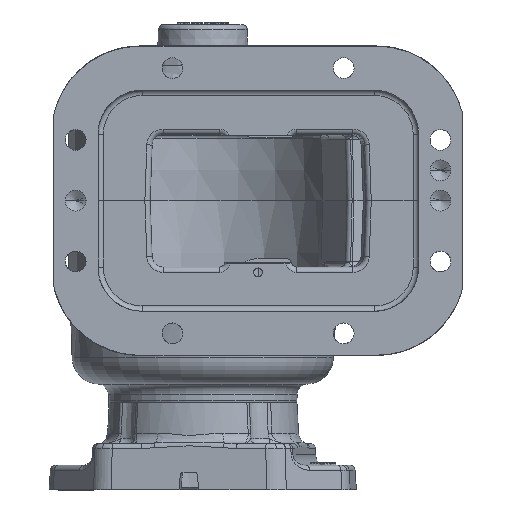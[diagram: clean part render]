
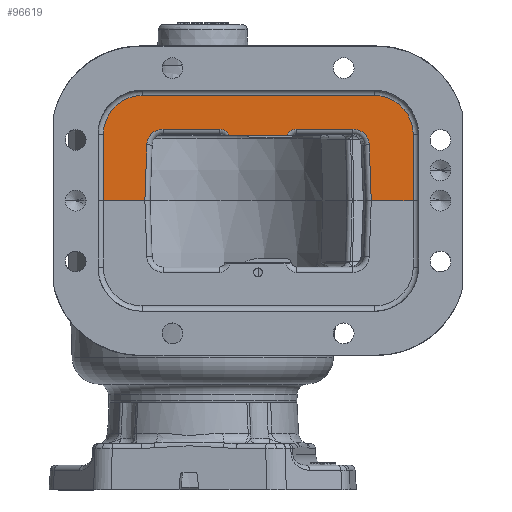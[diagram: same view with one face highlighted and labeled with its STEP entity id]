
A CAD part, front view. The second image highlights one B-rep face of the part: STEP entity #96619.
In plain terms, the highlighted planar face has unit normal (0, -1, 0).
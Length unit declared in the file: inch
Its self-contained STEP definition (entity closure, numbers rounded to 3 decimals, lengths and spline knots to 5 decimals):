
#573 = LINE ( 'NONE', #96717, #86482 ) ;
#1693 = VERTEX_POINT ( 'NONE', #90813 ) ;
#3667 = CARTESIAN_POINT ( 'NONE',  ( -1.47, -4.3, -3.37 ) ) ;
#4722 = CIRCLE ( 'NONE', #37878, 0.88 ) ;
#5596 = ORIENTED_EDGE ( 'NONE', *, *, #95677, .F. ) ;
#6559 = DIRECTION ( 'NONE',  ( 1., 0., 0. ) ) ;
#7131 = LINE ( 'NONE', #55989, #76379 ) ;
#7827 = EDGE_CURVE ( 'NONE', #33975, #61874, #4722, .T. ) ;
#7989 = LINE ( 'NONE', #102567, #21280 ) ;
#8660 = ORIENTED_EDGE ( 'NONE', *, *, #98202, .F. ) ;
#10984 = EDGE_CURVE ( 'NONE', #94378, #79240, #24231, .T. ) ;
#12722 = CARTESIAN_POINT ( 'NONE',  ( 0., -4.3, -2.25 ) ) ;
#12865 = VERTEX_POINT ( 'NONE', #68594 ) ;
#14222 = EDGE_CURVE ( 'NONE', #30390, #94378, #46119, .T. ) ;
#14369 = CARTESIAN_POINT ( 'NONE',  ( 0., -4.3, 4.76 ) ) ;
#15084 = EDGE_CURVE ( 'NONE', #74849, #12865, #60363, .T. ) ;
#15118 = DIRECTION ( 'NONE',  ( 0., 1., 0. ) ) ;
#15153 = VECTOR ( 'NONE', #16490, 39.37008 ) ;
#16490 = DIRECTION ( 'NONE',  ( -0.999, 0., -0.035 ) ) ;
#17397 = DIRECTION ( 'NONE',  ( 0., 1., 0. ) ) ;
#18125 = VECTOR ( 'NONE', #73460, 39.37008 ) ;
#19511 = PLANE ( 'NONE',  #38326 ) ;
#20092 = DIRECTION ( 'NONE',  ( 0., -1., 0. ) ) ;
#20441 = VERTEX_POINT ( 'NONE', #29120 ) ;
#20702 = ORIENTED_EDGE ( 'NONE', *, *, #84724, .F. ) ;
#21280 = VECTOR ( 'NONE', #102062, 39.37008 ) ;
#23286 = EDGE_CURVE ( 'NONE', #34923, #75778, #58993, .T. ) ;
#24231 = CIRCLE ( 'NONE', #40882, 0.37 ) ;
#24675 = VERTEX_POINT ( 'NONE', #63373 ) ;
#25120 = CARTESIAN_POINT ( 'NONE',  ( 0., -4.3, -3.37 ) ) ;
#26154 = LINE ( 'NONE', #25120, #18125 ) ;
#27051 = DIRECTION ( 'NONE',  ( 0., 0., -1. ) ) ;
#28263 = DIRECTION ( 'NONE',  ( 0., 0., -1. ) ) ;
#29120 = CARTESIAN_POINT ( 'NONE',  ( -1.47, -4.3, 0.60497 ) ) ;
#29496 = CARTESIAN_POINT ( 'NONE',  ( -1.62, -4.3, -0.8962 ) ) ;
#29545 = ORIENTED_EDGE ( 'NONE', *, *, #93372, .T. ) ;
#30390 = VERTEX_POINT ( 'NONE', #45388 ) ;
#31454 = CARTESIAN_POINT ( 'NONE',  ( -2.38, -4.3, 3.88 ) ) ;
#33429 = EDGE_CURVE ( 'NONE', #79240, #12865, #7131, .T. ) ;
#33450 = EDGE_CURVE ( 'NONE', #43811, #1693, #87689, .T. ) ;
#33677 = DIRECTION ( 'NONE',  ( 0., 0., -1. ) ) ;
#33975 = VERTEX_POINT ( 'NONE', #82833 ) ;
#34923 = VERTEX_POINT ( 'NONE', #96816 ) ;
#36491 = CIRCLE ( 'NONE', #41487, 0.88 ) ;
#37878 = AXIS2_PLACEMENT_3D ( 'NONE', #96386, #17397, #49128 ) ;
#38179 = VECTOR ( 'NONE', #6559, 39.37008 ) ;
#38326 = AXIS2_PLACEMENT_3D ( 'NONE', #65310, #51233, #82915 ) ;
#39705 = DIRECTION ( 'NONE',  ( 0., 0., -1. ) ) ;
#40882 = AXIS2_PLACEMENT_3D ( 'NONE', #56090, #81035, #87795 ) ;
#41487 = AXIS2_PLACEMENT_3D ( 'NONE', #53609, #15118, #69690 ) ;
#42692 = CARTESIAN_POINT ( 'NONE',  ( -1.62, -4.3, 2.11752 ) ) ;
#42973 = CIRCLE ( 'NONE', #62818, 0.24 ) ;
#43165 = ORIENTED_EDGE ( 'NONE', *, *, #97986, .F. ) ;
#43811 = VERTEX_POINT ( 'NONE', #63686 ) ;
#44238 = CARTESIAN_POINT ( 'NONE',  ( -2.38, -4.3, -1.37 ) ) ;
#45388 = CARTESIAN_POINT ( 'NONE',  ( -1.62, -4.3, 0.38248 ) ) ;
#46077 = LINE ( 'NONE', #14369, #38179 ) ;
#46119 = LINE ( 'NONE', #29496, #50188 ) ;
#47441 = ORIENTED_EDGE ( 'NONE', *, *, #75384, .F. ) ;
#47523 = CARTESIAN_POINT ( 'NONE',  ( -1.38, -4.3, 2.11752 ) ) ;
#47563 = CIRCLE ( 'NONE', #74151, 0.24 ) ;
#47814 = VECTOR ( 'NONE', #28263, 39.37008 ) ;
#49128 = DIRECTION ( 'NONE',  ( 0., 0., -1. ) ) ;
#50188 = VECTOR ( 'NONE', #58296, 39.37008 ) ;
#50310 = VECTOR ( 'NONE', #27051, 39.37008 ) ;
#51233 = DIRECTION ( 'NONE',  ( 0., 1., 0. ) ) ;
#53102 = CARTESIAN_POINT ( 'NONE',  ( -1.26291, -4.3, -1.26597 ) ) ;
#53609 = CARTESIAN_POINT ( 'NONE',  ( -1.5, -4.3, 3.88 ) ) ;
#54801 = CIRCLE ( 'NONE', #86346, 0.37 ) ;
#55789 = CARTESIAN_POINT ( 'NONE',  ( 0., -4.3, 4.76 ) ) ;
#55989 = CARTESIAN_POINT ( 'NONE',  ( -0.00419, -4.3, -1.30993 ) ) ;
#56090 = CARTESIAN_POINT ( 'NONE',  ( -1.25, -4.3, -0.8962 ) ) ;
#57416 = EDGE_CURVE ( 'NONE', #20441, #30390, #47563, .T. ) ;
#57832 = VERTEX_POINT ( 'NONE', #55789 ) ;
#58296 = DIRECTION ( 'NONE',  ( 0., 0., -1. ) ) ;
#58468 = CARTESIAN_POINT ( 'NONE',  ( -1.62, -4.3, 2.11752 ) ) ;
#58993 = LINE ( 'NONE', #58468, #47814 ) ;
#60363 = LINE ( 'NONE', #69169, #86730 ) ;
#60529 = CARTESIAN_POINT ( 'NONE',  ( -1.25, -4.3, 3.3962 ) ) ;
#60809 = ORIENTED_EDGE ( 'NONE', *, *, #33429, .F. ) ;
#61455 = ORIENTED_EDGE ( 'NONE', *, *, #15084, .T. ) ;
#61874 = VERTEX_POINT ( 'NONE', #44238 ) ;
#62818 = AXIS2_PLACEMENT_3D ( 'NONE', #47523, #88046, #39705 ) ;
#63373 = CARTESIAN_POINT ( 'NONE',  ( -1.5, -4.3, 4.76 ) ) ;
#63382 = ORIENTED_EDGE ( 'NONE', *, *, #96068, .F. ) ;
#63452 = VERTEX_POINT ( 'NONE', #66519 ) ;
#63686 = CARTESIAN_POINT ( 'NONE',  ( 0., -4.3, 3.81007 ) ) ;
#65310 = CARTESIAN_POINT ( 'NONE',  ( -3.5, -4.3, -3.37 ) ) ;
#66185 = CARTESIAN_POINT ( 'NONE',  ( -1.62, -4.3, -0.8962 ) ) ;
#66519 = CARTESIAN_POINT ( 'NONE',  ( -1.47, -4.3, 1.89503 ) ) ;
#66833 = ORIENTED_EDGE ( 'NONE', *, *, #10984, .F. ) ;
#68594 = CARTESIAN_POINT ( 'NONE',  ( 0., -4.3, -1.31007 ) ) ;
#69169 = CARTESIAN_POINT ( 'NONE',  ( 0., -4.3, -3.37 ) ) ;
#69690 = DIRECTION ( 'NONE',  ( 0., 0., -1. ) ) ;
#72091 = CARTESIAN_POINT ( 'NONE',  ( -1.26291, -4.3, 3.76597 ) ) ;
#72601 = VERTEX_POINT ( 'NONE', #31454 ) ;
#73460 = DIRECTION ( 'NONE',  ( 0., 0., 1. ) ) ;
#74151 = AXIS2_PLACEMENT_3D ( 'NONE', #90322, #20092, #33677 ) ;
#74363 = LINE ( 'NONE', #3667, #50310 ) ;
#74849 = VERTEX_POINT ( 'NONE', #12722 ) ;
#75384 = EDGE_CURVE ( 'NONE', #61874, #72601, #7989, .T. ) ;
#75778 = VERTEX_POINT ( 'NONE', #42692 ) ;
#76179 = EDGE_LOOP ( 'NONE', ( #20702, #83225, #86922, #63382, #94013, #29545, #5596, #43165, #47441, #76932, #8660, #61455, #60809, #66833, #84382, #87565 ) ) ;
#76379 = VECTOR ( 'NONE', #102738, 39.37008 ) ;
#76461 = EDGE_CURVE ( 'NONE', #75778, #63452, #42973, .T. ) ;
#76932 = ORIENTED_EDGE ( 'NONE', *, *, #7827, .F. ) ;
#79240 = VERTEX_POINT ( 'NONE', #53102 ) ;
#80889 = FACE_OUTER_BOUND ( 'NONE', #76179, .T. ) ;
#81035 = DIRECTION ( 'NONE',  ( 0., -1., 0. ) ) ;
#82833 = CARTESIAN_POINT ( 'NONE',  ( -1.5, -4.3, -2.25 ) ) ;
#82915 = DIRECTION ( 'NONE',  ( 0., 0., -1. ) ) ;
#83225 = ORIENTED_EDGE ( 'NONE', *, *, #76461, .F. ) ;
#84382 = ORIENTED_EDGE ( 'NONE', *, *, #14222, .F. ) ;
#84416 = DIRECTION ( 'NONE',  ( 0., 0., -1. ) ) ;
#84724 = EDGE_CURVE ( 'NONE', #63452, #20441, #74363, .T. ) ;
#86346 = AXIS2_PLACEMENT_3D ( 'NONE', #60529, #92234, #84416 ) ;
#86482 = VECTOR ( 'NONE', #89445, 39.37008 ) ;
#86730 = VECTOR ( 'NONE', #99836, 39.37008 ) ;
#86922 = ORIENTED_EDGE ( 'NONE', *, *, #23286, .F. ) ;
#87565 = ORIENTED_EDGE ( 'NONE', *, *, #57416, .F. ) ;
#87689 = LINE ( 'NONE', #72091, #15153 ) ;
#87795 = DIRECTION ( 'NONE',  ( 0., 0., -1. ) ) ;
#88046 = DIRECTION ( 'NONE',  ( 0., -1., 0. ) ) ;
#89445 = DIRECTION ( 'NONE',  ( -1., 0., 0. ) ) ;
#90322 = CARTESIAN_POINT ( 'NONE',  ( -1.38, -4.3, 0.38248 ) ) ;
#90813 = CARTESIAN_POINT ( 'NONE',  ( -1.26291, -4.3, 3.76597 ) ) ;
#92234 = DIRECTION ( 'NONE',  ( 0., -1., 0. ) ) ;
#93372 = EDGE_CURVE ( 'NONE', #43811, #57832, #26154, .T. ) ;
#94013 = ORIENTED_EDGE ( 'NONE', *, *, #33450, .F. ) ;
#94378 = VERTEX_POINT ( 'NONE', #66185 ) ;
#95677 = EDGE_CURVE ( 'NONE', #24675, #57832, #46077, .T. ) ;
#96068 = EDGE_CURVE ( 'NONE', #1693, #34923, #54801, .T. ) ;
#96386 = CARTESIAN_POINT ( 'NONE',  ( -1.5, -4.3, -1.37 ) ) ;
#96619 = ADVANCED_FACE ( 'NONE', ( #80889 ), #19511, .F. ) ;
#96717 = CARTESIAN_POINT ( 'NONE',  ( -1.5, -4.3, -2.25 ) ) ;
#96816 = CARTESIAN_POINT ( 'NONE',  ( -1.62, -4.3, 3.3962 ) ) ;
#97986 = EDGE_CURVE ( 'NONE', #72601, #24675, #36491, .T. ) ;
#98202 = EDGE_CURVE ( 'NONE', #74849, #33975, #573, .T. ) ;
#99836 = DIRECTION ( 'NONE',  ( 0., 0., 1. ) ) ;
#102062 = DIRECTION ( 'NONE',  ( 0., 0., 1. ) ) ;
#102567 = CARTESIAN_POINT ( 'NONE',  ( -2.38, -4.3, 3.88 ) ) ;
#102738 = DIRECTION ( 'NONE',  ( 0.999, 0., -0.035 ) ) ;
